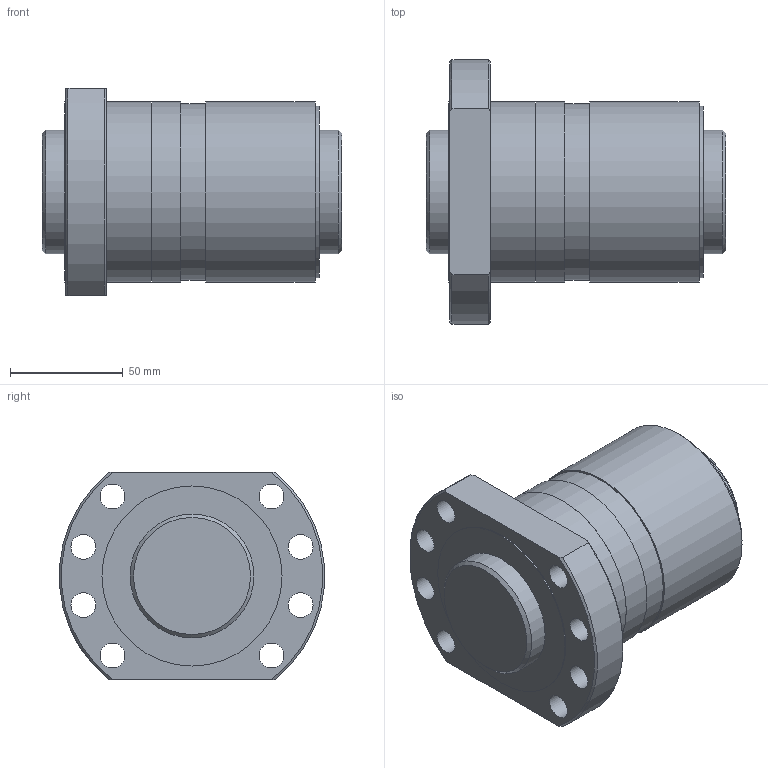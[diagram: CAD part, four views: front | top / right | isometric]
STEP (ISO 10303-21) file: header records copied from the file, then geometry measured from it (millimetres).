
FILE_DESCRIPTION(/* description */ ('STEP AP203'),/* implementation_level */ '2;1');
FILE_NAME(/* name */ 'SDAN5510VX-4G0+133LC0(0G000)',/* time_stamp */ '2024-07-04T10:21:16+02:00',/* author */ ('License CC BY-ND 4.0'),/* organization */ ('CADENAS'),/* preprocessor_version */ 'ST-DEVELOPER v19.3',/* originating_system */ 'PARTsolutions',/* authorisation */ ' ');
FILE_SCHEMA (('CONFIG_CONTROL_DESIGN'));
Length unit declared in the file: millimetre
Products named in the file (3): SDAN5510VX-4G0+133LC0(0G000); 0SDAN5510VX-40Shaft; SDAN5510VX-4_nut
Assembly tree (2 placements, depth 2):
  SDAN5510VX-4G0+133LC0(0G000)
    0SDAN5510VX-40Shaft
    SDAN5510VX-4_nut
Bounding box: 133 x 117.61 x 92 mm (x, y, z)
Volume: 679917.2 mm3; surface area: 96440.5 mm2
Topology: 2 solids, 2 shells, 41 faces, 95 edges, 65 vertices
Faces by surface type: cylinder 21, plane 13, cone 7
Full cylindrical faces by diameter (mm): 5.2 x1, 6.917 x1, 11 x8, 55 x2, 76.4 x1, 78 x1, 78.4 x1, 80 x4
Entity records: 1143 total; most frequent: CARTESIAN_POINT 208, DIRECTION 188, ORIENTED_EDGE 128, EDGE_LOOP 90, FACE_BOUND 90, AXIS2_PLACEMENT_3D 90, EDGE_CURVE 64, VERTEX_POINT 56
